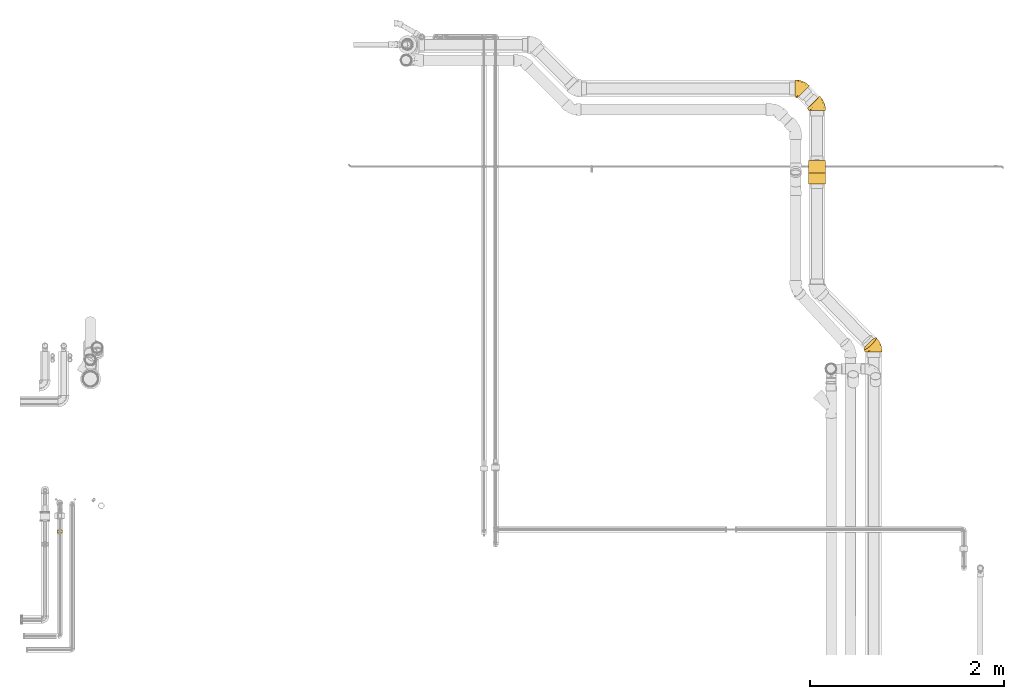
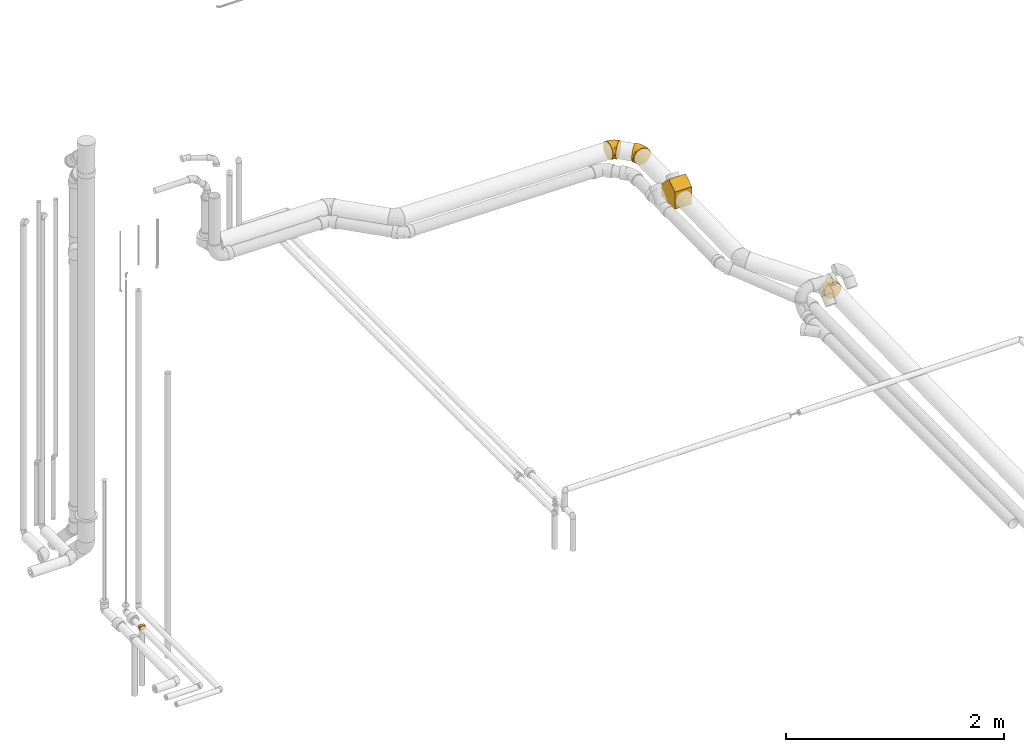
# One storey, part 13 of 78: 5 coverings.
"""IFC2X3 building model written with IfcOpenShell, lengths in millimetres."""

from ifc_helpers import new_model, entity, si_unit, converted_unit, derived_unit, direction, frame, origin_with_axes, place, context, subcontext, project, spatial, open_shell, surface_model, source, transform, mapped, element, save


model = new_model("IFC2X3")

# Units and contexts
model_context = context("Model", 3, precision=0.01, world=frame((0.0, 4.29681676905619e-09, 0.0)), true_north=direction((4.01073788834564e-13, 1.0)))
plan_context = context("Plan", 3, precision=0.01, world=frame((0.0, 4.29681676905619e-09, 0.0)), true_north=direction((4.01073788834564e-13, 1.0)))
body_context = subcontext(model_context, "Body", "Model", "MODEL_VIEW")
ifc_project = project(units=[converted_unit("PLANEANGLEUNIT", "DEGREE", entity("IfcPositiveLengthMeasure", 0.0174532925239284), si_unit("PLANEANGLEUNIT", "RADIAN"), dimensions=[0, 0, 0, 0, 0, 0, 0]), si_unit("AREAUNIT", "SQUARE_METRE"), si_unit("LENGTHUNIT", "METRE", prefix="MILLI"), si_unit("MASSUNIT", "GRAM", prefix="KILO"), si_unit("POWERUNIT", "WATT"), si_unit("PRESSUREUNIT", "PASCAL"), si_unit("FORCEUNIT", "NEWTON", prefix="KILO"), si_unit("ELECTRICVOLTAGEUNIT", "VOLT"), si_unit("ELECTRICCURRENTUNIT", "AMPERE"), si_unit("THERMODYNAMICTEMPERATUREUNIT", "DEGREE_CELSIUS"), si_unit("TIMEUNIT", "SECOND"), si_unit("VOLUMEUNIT", "CUBIC_METRE"), derived_unit("LINEARVELOCITYUNIT", [(si_unit("LENGTHUNIT", "METRE"), 1), (si_unit("TIMEUNIT", "SECOND"), -1)]), derived_unit("VOLUMETRICFLOWRATEUNIT", [(si_unit("VOLUMEUNIT", "CUBIC_METRE"), 1), (si_unit("TIMEUNIT", "SECOND"), -1)]), derived_unit("THERMALTRANSMITTANCEUNIT", [(si_unit("POWERUNIT", "WATT"), 1), (si_unit("THERMODYNAMICTEMPERATUREUNIT", "KELVIN"), -1), (si_unit("AREAUNIT", "SQUARE_METRE"), -1)]), derived_unit("SOUNDPRESSUREUNIT", [(si_unit("PRESSUREUNIT", "PASCAL"), 1)])], contexts=[model_context, plan_context])

# Site, building, storey
site_placement = place(None, frame((0.0, -4.29681676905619e-09, 0.0), z_axis=(0.0, 0.0, 1.0), x_axis=(1.0, 0.0, 0.0)))
site = spatial("IfcSite", under=ifc_project, at=site_placement, Name="ENGM", CompositionType="ELEMENT")
building_placement = place(site_placement, frame((0.0, 4.29681676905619e-09, 0.0), z_axis=(0.0, 0.0, 1.0), x_axis=(1.0, 0.0, 0.0)))
building = spatial("IfcBuilding", under=site, at=building_placement, Name="TH", CompositionType="ELEMENT")
storey_placement = place(building_placement, frame((0.0, 0.0, 205200.0), z_axis=(0.0, 0.0, 1.0), x_axis=(1.0, 0.0, 0.0)))
storey = spatial("IfcBuildingStorey", under=building, at=storey_placement, Name="Nivå D + 1,2 m", CompositionType="ELEMENT", Elevation=205200.0)

# Coverings
shared_shape_1 = source(origin_with_axes(), body_context, "Body", "SurfaceModel", [
    surface_model("IfcShellBasedSurfaceModel", [(53.53194, -177.57381, 89.0), (-63.10544, -104.87316, 89.0), (-63.10544, -104.87316, -89.0), (53.53194, -177.57381, -89.0), (179.65751, -46.30024, 89.0), (179.65751, -46.30024, -89.0), (179.65751, 94.79106, 89.0), (179.65751, 94.79106, -89.0), (-63.10544, 89.9358, 89.0), (-63.10544, 89.9358, -89.0)], [open_shell([[[0, 1, 2]], [[2, 3, 0]], [[4, 0, 5]], [[3, 5, 0]], [[6, 4, 7]], [[5, 7, 4]], [[1, 0, 4]], [[4, 6, 8]], [[4, 8, 1]], [[3, 2, 5]], [[5, 9, 7]], [[9, 5, 2]], [[7, 9, 8]], [[8, 6, 7]], [[1, 8, 2]], [[9, 2, 8]]])]),
])
covering_1_placement = place(storey_placement, frame((903320.3848, 481897.17242, 4353.40533000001), z_axis=(-1.0, 0.0, 0.0), x_axis=(0.0, 0.999800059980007, 0.0199960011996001)))
element("IfcCovering", 1, at=covering_1_placement, inside=storey, Name="BI17T - Cellegummi 13 mm SPV fett", PredefinedType="INSULATION", context=body_context, shape_type="MappedRepresentation", body=[
    mapped(shared_shape_1, transform((0.0, 0.0, 0.0), scale=1.0)),
])
shared_shape_2 = source(origin_with_axes(), body_context, "Body", "SurfaceModel", [
    surface_model("IfcShellBasedSurfaceModel", [(-26.87635, 97.76047, 15.54509), (-24.02064, 94.90384, 30.61646), (-5.23101, 76.10811, 68.56595), (-26.87747, 97.76159, -15.53607), (-27.83809, 98.72253, 0.0), (-19.35814, 90.23982, 44.75638), (13.80032, 57.07059, 84.10466), (24.45382, 46.41365, 88.14125), (3.80418, 67.06998, 77.51286), (-19.36328, 90.24495, -44.7438), (-13.0308, 83.91042, 57.53551), (67.0801, 3.77354, 77.50559), (-24.02364, 94.90683, -30.60483), (13.7921, 57.07882, -84.10043), (-13.03788, 83.91752, -57.52357), (-5.23946, 76.11656, -68.55592), (3.79529, 67.07887, -77.50559), (46.42158, 24.43877, -88.14125), (24.44744, 46.42003, -88.13966), (35.4377, 35.42621, -89.5), (35.4377, 35.42621, 89.5), (46.42795, 24.43238, 88.13966), (57.08329, 13.77359, 84.10043), (97.75286, -26.90918, 15.53607), (76.11485, -5.26415, 68.55592), (83.91328, -13.0651, 57.52357), (94.89903, -24.05442, 30.60483), (90.23867, -19.39255, 44.7438), (76.10641, -5.2557, -68.56595), (67.07121, 3.78243, -77.51286), (57.07507, 13.78181, -84.10466), (97.75175, -26.90806, -15.54509), (94.89603, -24.05142, -30.61646), (90.23354, -19.38741, -44.75638), (83.90619, -13.05801, -57.53551), (98.71349, -27.87011, 0.0), (-50.10835, 86.45036, -23.1643), (-50.10835, 86.45036, 23.1643), (-50.10835, 89.5, 0.0), (-50.10835, 63.28606, -63.28606), (-50.10835, 77.50928, -44.75), (-50.10835, -23.1643, 86.45036), (-50.10835, 44.75, -77.50928), (-50.10835, 23.1643, 86.45036), (-50.10835, 63.28606, 63.28606), (-50.10835, 77.50928, 44.75), (-50.10835, 44.75, 77.50928), (-50.10835, 0.0, 89.5), (-50.10835, 23.1643, -86.45036), (-50.10835, 0.0, -89.5), (-50.10835, -77.50928, -44.75), (-50.10835, -23.1643, -86.45036), (-50.10835, -63.28606, -63.28606), (-50.10835, -44.75, -77.50928), (-50.10835, -86.45036, -23.1643), (-50.10835, -44.75, 77.50928), (-50.10835, -86.45036, 23.1643), (-50.10835, -63.28606, 63.28606), (-50.10835, -77.50928, 44.75), (-50.10835, -89.5, 0.0), (12.40134, -29.94165, 78.8337), (40.6219, -11.96375, 80.07902), (4.29754, -10.37757, 86.95359), (-9.0502, -85.45697, 0.0), (9.44128, -77.13367, 25.1656), (30.43075, -73.48317, 0.0), (48.51889, -62.88965, 18.01119), (25.01743, -60.40745, 48.30037), (1.43588, -53.34862, 65.67041), (-14.93068, -69.17008, 52.62154), (-18.79756, 4.12128, 89.5), (59.65896, -49.49502, 36.37604), (10.38032, 16.20439, 89.5), (-22.31996, -33.86723, 81.79006), (47.66918, -37.26519, 61.48939), (35.78094, -30.43057, 72.05165), (66.8179, -54.03858, 0.0), (-33.06288, 95.23236, 0.0), (-34.40176, 91.45, 18.65091), (-35.67239, 54.42025, 72.2127), (-32.45937, 36.06446, 82.68721), (-14.37211, 45.88588, 81.11741), (-32.04292, 16.85321, 88.18289), (-32.97238, 84.9801, 37.8304), (-40.56842, 83.86357, 34.32111), (-42.20765, 88.72938, 17.4806), (-27.01339, 78.65645, 52.10672), (-37.83936, 75.99591, 49.81775), (-27.76607, 67.7801, 63.29157), (-17.46173, 73.40027, 63.29157), (-14.12471, 25.64191, 87.44289), (3.56656, 38.92479, 86.51228), (-38.05618, 91.89682, 0.0), (-44.08226, 90.69841, 0.0), (-41.309, 71.78558, -54.48415), (-33.68391, 33.98691, -83.40998), (-43.94575, 90.72556, 0.0), (-4.73307, 53.68876, -80.15227), (-31.86456, 76.9466, -51.32899), (-41.18527, 83.7408, -34.25017), (-33.20103, 90.87171, -23.15857), (-40.43096, 89.34456, -16.85611), (-16.46218, 24.84458, -87.43211), (-18.79756, 4.12128, -89.5), (-19.46237, 72.10126, -63.28054), (-31.71397, 60.25903, -68.55644), (-18.28625, 44.15901, -81.11172), (1.84404, 38.10331, -86.44911), (-32.94714, 95.30967, 0.0), (-24.15321, 82.49666, -49.50007), (-18.45063, 59.09004, -73.22266), (10.38032, 16.20439, -89.5), (4.29506, -10.37158, -86.95516), (1.42825, -53.34051, -65.67962), (35.77306, -30.42197, -72.06002), (47.66137, -37.25781, -61.50037), (40.61338, -11.9553, -80.0849), (12.39369, -29.93248, -78.83982), (-14.94173, -69.16472, -52.63154), (9.44052, -77.13189, -25.17218), (25.01173, -60.40148, -48.31238), (-22.32756, -33.86801, -81.79031), (59.71597, -42.80589, -46.92043), (62.90585, -53.30512, -22.06846)], [open_shell([[[0, 1, 2]], [[0, 3, 4]], [[2, 1, 5]], [[6, 7, 8]], [[2, 8, 7]], [[0, 2, 9]], [[5, 10, 2]], [[11, 9, 2]], [[12, 3, 9]], [[13, 14, 9]], [[3, 0, 9]], [[15, 14, 16]], [[13, 17, 18]], [[13, 16, 14]], [[19, 18, 17]], [[17, 13, 9]], [[11, 2, 7]], [[20, 21, 11]], [[22, 11, 21]], [[23, 9, 11]], [[24, 25, 26]], [[23, 11, 26]], [[26, 25, 27]], [[26, 11, 24]], [[9, 23, 28]], [[28, 29, 30]], [[30, 17, 28]], [[9, 28, 17]], [[28, 31, 32]], [[33, 34, 28]], [[28, 32, 33]], [[23, 31, 28]], [[23, 35, 31]], [[11, 7, 20]], [[36, 37, 38]], [[39, 36, 40]], [[41, 39, 42]], [[43, 36, 41]], [[36, 39, 41]], [[37, 44, 45]], [[44, 37, 46]], [[37, 43, 46]], [[37, 36, 43]], [[43, 41, 47]], [[48, 49, 42]], [[50, 49, 51]], [[52, 51, 53]], [[50, 54, 49]], [[50, 51, 52]], [[49, 54, 41]], [[55, 56, 57]], [[55, 41, 54]], [[57, 56, 58]], [[54, 56, 55]], [[54, 59, 56]], [[49, 41, 42]], [[60, 61, 62]], [[56, 59, 63]], [[64, 63, 65]], [[66, 64, 65]], [[22, 21, 62]], [[67, 68, 69]], [[41, 62, 70]], [[71, 67, 64]], [[72, 70, 62]], [[73, 41, 55]], [[74, 75, 68]], [[75, 11, 61]], [[55, 57, 68]], [[70, 47, 41]], [[73, 62, 41]], [[58, 56, 64]], [[67, 74, 68]], [[64, 67, 69]], [[66, 65, 76]], [[66, 23, 26]], [[74, 71, 25]], [[25, 71, 27]], [[26, 71, 66]], [[23, 76, 35]], [[57, 69, 68]], [[24, 75, 74]], [[25, 24, 74]], [[68, 75, 60]], [[62, 21, 72]], [[20, 72, 21]], [[69, 57, 58]], [[68, 60, 73]], [[74, 67, 71]], [[22, 61, 11]], [[23, 66, 76]], [[75, 61, 60]], [[11, 75, 24]], [[62, 61, 22]], [[64, 66, 71]], [[71, 26, 27]], [[64, 69, 58]], [[56, 63, 64]], [[68, 73, 55]], [[62, 73, 60]], [[77, 78, 0]], [[79, 46, 80]], [[81, 6, 8]], [[82, 47, 70]], [[78, 83, 1]], [[80, 43, 82]], [[37, 45, 84]], [[43, 80, 46]], [[37, 85, 38]], [[81, 79, 80]], [[86, 87, 88]], [[10, 5, 86]], [[44, 79, 87]], [[87, 83, 84]], [[86, 89, 10]], [[81, 89, 88]], [[81, 90, 91]], [[79, 81, 88]], [[83, 86, 5]], [[81, 91, 6]], [[1, 0, 78]], [[79, 44, 46]], [[84, 78, 85]], [[10, 89, 2]], [[7, 72, 20]], [[8, 2, 89]], [[88, 89, 86]], [[81, 80, 90]], [[77, 92, 78]], [[85, 92, 93]], [[83, 78, 84]], [[85, 78, 92]], [[0, 4, 77]], [[5, 1, 83]], [[44, 87, 45]], [[89, 81, 8]], [[90, 82, 70]], [[87, 86, 83]], [[79, 88, 87]], [[70, 72, 90]], [[91, 72, 7]], [[72, 91, 90]], [[6, 91, 7]], [[37, 84, 85]], [[45, 87, 84]], [[80, 82, 90]], [[47, 82, 43]], [[38, 85, 93]], [[39, 40, 94]], [[48, 42, 95]], [[36, 38, 96]], [[97, 15, 16]], [[98, 94, 99]], [[100, 101, 92]], [[48, 102, 103]], [[98, 104, 105]], [[49, 48, 103]], [[96, 101, 36]], [[102, 106, 107]], [[102, 95, 106]], [[36, 99, 40]], [[48, 95, 102]], [[101, 100, 99]], [[42, 39, 105]], [[108, 4, 3]], [[105, 95, 42]], [[108, 3, 100]], [[14, 15, 104]], [[104, 109, 14]], [[107, 13, 18]], [[109, 12, 9]], [[109, 100, 12]], [[100, 98, 99]], [[97, 110, 15]], [[97, 13, 107]], [[94, 105, 39]], [[111, 18, 19]], [[102, 111, 103]], [[18, 111, 107]], [[106, 97, 107]], [[105, 106, 95]], [[98, 109, 104]], [[96, 92, 101]], [[3, 12, 100]], [[111, 102, 107]], [[15, 110, 104]], [[36, 101, 99]], [[99, 94, 40]], [[105, 94, 98]], [[100, 109, 98]], [[14, 109, 9]], [[97, 106, 110]], [[13, 97, 16]], [[106, 105, 110]], [[105, 104, 110]], [[100, 92, 108]], [[51, 103, 112]], [[113, 114, 115]], [[115, 114, 28]], [[17, 112, 111]], [[111, 112, 103]], [[49, 103, 51]], [[114, 116, 29]], [[114, 113, 117]], [[63, 59, 54]], [[52, 118, 50]], [[119, 118, 120]], [[118, 119, 50]], [[50, 119, 54]], [[113, 53, 121]], [[118, 52, 113]], [[119, 65, 63]], [[122, 33, 32]], [[51, 121, 53]], [[112, 17, 30]], [[34, 122, 115]], [[112, 30, 116]], [[29, 28, 114]], [[115, 28, 34]], [[118, 113, 120]], [[123, 119, 120]], [[29, 116, 30]], [[53, 113, 52]], [[33, 122, 34]], [[123, 32, 31]], [[115, 122, 120]], [[114, 117, 116]], [[65, 119, 123]], [[31, 35, 76]], [[123, 120, 122]], [[65, 123, 76]], [[76, 123, 31]], [[113, 115, 120]], [[32, 123, 122]], [[54, 119, 63]], [[17, 111, 19]], [[112, 116, 117]], [[112, 117, 121]], [[112, 121, 51]], [[113, 121, 117]]])]),
])
covering_2_placement = place(storey_placement, frame((903320.98069, 482641.12133, 4370.33634000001), z_axis=(0.00819800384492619, -0.0199950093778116, 0.999766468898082), x_axis=(-2.62283794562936e-09, 0.999800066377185, 0.019995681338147)))
element("IfcCovering", 2, at=covering_2_placement, inside=storey, Name="BI17T - Cellegummi 13 mm SPV fett", PredefinedType="INSULATION", context=body_context, shape_type="MappedRepresentation", body=[
    mapped(shared_shape_2, transform((0.0, 0.0, 0.0), scale=1.0)),
])
shared_shape_3 = source(origin_with_axes(), body_context, "Body", "SurfaceModel", [
    surface_model("IfcShellBasedSurfaceModel", [(-26.88407, 97.76424, 15.54509), (-24.0309, 94.91106, -30.60483), (-27.84598, 98.72613, 0.0), (-5.23523, 76.11538, 68.56595), (3.80144, 67.07872, 77.51286), (13.7992, 57.08096, 84.10466), (-13.04337, 83.92352, -57.52357), (-19.36978, 90.24994, -44.7438), (-26.8852, 97.76535, -15.53607), (3.79254, 67.08762, -77.50559), (-5.24367, 76.12383, -68.55592), (13.79097, 57.08918, -84.10043), (57.08096, 13.7992, -84.10466), (46.42574, 24.45442, -88.14125), (67.07872, 3.80144, -77.51286), (98.72613, -27.84598, 0.0), (97.76424, -26.88407, -15.54509), (94.90806, -24.02791, -30.61646), (-50.11984, 86.45036, -23.1643), (-50.11984, 86.45036, 23.1643), (-50.11984, 89.5, 0.0), (-50.11984, 63.28606, -63.28606), (-50.11984, 77.50928, -44.75), (-50.11984, -23.1643, 86.45036), (-50.11984, 44.75, -77.50928), (-50.11984, 23.1643, 86.45036), (-50.11984, 63.28606, 63.28606), (-50.11984, 77.50928, 44.75), (-50.11984, 44.75, 77.50928), (-50.11984, 0.0, 89.5), (-50.11984, 23.1643, -86.45036), (-50.11984, 0.0, -89.5), (-50.11984, -77.50928, -44.75), (-50.11984, -23.1643, -86.45036), (-50.11984, -63.28606, -63.28606), (-50.11984, -44.75, -77.50928), (-50.11984, -86.45036, -23.1643), (-50.11984, -44.75, 77.50928), (-50.11984, -86.45036, 23.1643), (-50.11984, -63.28606, 63.28606), (-50.11984, -77.50928, 44.75), (-50.11984, -89.5, 0.0), (12.40279, -29.93828, 78.83271), (40.62653, -11.95388, 80.07855), (4.297, -10.37388, 86.9534), (-9.05333, -85.4553, 0.0), (9.44182, -77.13028, 25.16488), (30.43502, -73.47664, 0.0), (48.52612, -62.87969, 18.01085), (57.08918, 13.79097, 84.10043), (46.43212, 24.44804, 88.13966), (25.02096, -60.40211, 48.2991), (1.45225, -53.34176, 65.66919), (-14.93384, -69.16861, 52.62144), (-18.80274, 4.12297, 89.5), (59.66945, -49.48114, 36.37551), (10.38016, 16.21093, 89.5), (-22.32376, -33.86685, 81.78962), (47.67784, -37.25347, 61.48873), (35.7854, -30.4225, 72.05103), (67.08762, 3.79254, 77.50559), (66.82769, -54.02436, 0.0), (97.76535, -26.8852, 15.53607), (94.91106, -24.0309, 30.60483), (83.92352, -13.04337, 57.52357), (90.24994, -19.36978, 44.7438), (76.12383, -5.24367, 68.55592), (35.44008, 35.44008, 89.5), (-33.07032, 95.23534, 0.0), (-34.40977, 91.4521, 18.64986), (-35.68326, 54.42269, 72.21105), (-32.4639, 36.06591, 82.68721), (-14.37216, 45.89133, 81.11741), (-32.04868, 16.85803, 88.18224), (-32.97839, 84.9827, 37.8304), (-24.02791, 94.90806, 30.61646), (-40.57246, 83.86553, 34.321), (-42.21675, 88.729, 17.4853), (-27.02031, 78.65811, 52.10774), (-37.84835, 75.99858, 49.81488), (-27.7733, 67.78189, 63.29157), (-13.03628, 83.91643, 57.53551), (-19.36465, 90.24481, 44.75638), (-17.46756, 73.40416, 63.29157), (-14.12588, 25.64548, 87.44296), (3.56748, 38.9291, 86.51312), (24.45442, 46.42574, 88.14125), (-38.06531, 91.8978, 0.0), (-44.09258, 90.6989, 0.0), (-41.3183, 71.78597, -54.48415), (-33.68972, 33.98489, -83.41116), (-43.95731, 90.7258, 0.0), (-4.73875, 53.69641, -80.15072), (-31.87248, 76.94808, -51.32899), (-41.19555, 83.74109, -34.25017), (-33.20838, 90.87403, -23.15857), (-40.44121, 89.34509, -16.85536), (-16.46117, 24.84732, -87.43245), (-18.80274, 4.12297, -89.5), (-19.46762, 72.10517, -63.28054), (-31.71604, 60.26188, -68.55644), (-18.29151, 44.1616, -81.11172), (1.84312, 38.10994, -86.44911), (-32.95564, 95.31197, 0.0), (-24.16145, 82.50117, -49.49719), (24.44804, 46.43212, -88.13966), (-18.45849, 59.09336, -73.22175), (10.38016, 16.21093, -89.5), (35.44008, 35.44008, -89.5), (4.29452, -10.36789, -86.95497), (1.44463, -53.33365, -65.67839), (35.77751, -30.4139, -72.0594), (47.67003, -37.24609, -61.49971), (76.11538, -5.23523, -68.56595), (40.61801, -11.94543, -80.08444), (12.39515, -29.92912, -78.83883), (-14.94488, -69.16325, -52.63145), (9.44106, -77.1285, -25.17146), (25.01525, -60.39614, -48.31111), (-22.33137, -33.86763, -81.78988), (59.72464, -42.79541, -46.91631), (90.24481, -19.36465, -44.75638), (83.91643, -13.03628, -57.53551), (62.92368, -53.28617, -22.06827)], [open_shell([[[0, 1, 2]], [[3, 4, 5]], [[6, 7, 1]], [[8, 2, 1]], [[9, 10, 11]], [[12, 13, 14]], [[15, 16, 17]], [[18, 19, 20]], [[21, 18, 22]], [[23, 21, 24]], [[25, 18, 23]], [[18, 21, 23]], [[19, 26, 27]], [[26, 19, 28]], [[19, 25, 28]], [[19, 18, 25]], [[25, 23, 29]], [[30, 31, 24]], [[32, 31, 33]], [[34, 33, 35]], [[32, 36, 31]], [[32, 33, 34]], [[31, 36, 23]], [[37, 38, 39]], [[37, 23, 36]], [[39, 38, 40]], [[36, 38, 37]], [[36, 41, 38]], [[31, 23, 24]], [[42, 43, 44]], [[38, 41, 45]], [[46, 45, 47]], [[48, 46, 47]], [[49, 50, 44]], [[51, 52, 53]], [[23, 44, 54]], [[55, 51, 46]], [[56, 54, 44]], [[57, 23, 37]], [[58, 59, 52]], [[59, 60, 43]], [[37, 39, 52]], [[54, 29, 23]], [[57, 44, 23]], [[40, 38, 46]], [[51, 58, 52]], [[46, 51, 53]], [[48, 47, 61]], [[48, 62, 63]], [[58, 55, 64]], [[64, 55, 65]], [[63, 55, 48]], [[62, 61, 15]], [[39, 53, 52]], [[66, 59, 58]], [[64, 66, 58]], [[52, 59, 42]], [[44, 50, 56]], [[67, 56, 50]], [[53, 39, 40]], [[52, 42, 57]], [[58, 51, 55]], [[49, 43, 60]], [[62, 48, 61]], [[59, 43, 42]], [[60, 59, 66]], [[44, 43, 49]], [[46, 48, 55]], [[55, 63, 65]], [[46, 53, 40]], [[38, 45, 46]], [[52, 57, 37]], [[44, 57, 42]], [[68, 69, 0]], [[70, 28, 71]], [[72, 5, 4]], [[73, 29, 54]], [[69, 74, 75]], [[71, 25, 73]], [[19, 27, 76]], [[25, 71, 28]], [[19, 77, 20]], [[72, 70, 71]], [[78, 79, 80]], [[81, 82, 78]], [[26, 70, 79]], [[79, 74, 76]], [[78, 83, 81]], [[72, 83, 80]], [[72, 84, 85]], [[70, 72, 80]], [[74, 78, 82]], [[72, 85, 5]], [[75, 0, 69]], [[70, 26, 28]], [[76, 69, 77]], [[81, 83, 3]], [[86, 56, 67]], [[4, 3, 83]], [[80, 83, 78]], [[72, 71, 84]], [[68, 87, 69]], [[77, 87, 88]], [[74, 69, 76]], [[77, 69, 87]], [[0, 2, 68]], [[82, 75, 74]], [[26, 79, 27]], [[83, 72, 4]], [[84, 73, 54]], [[79, 78, 74]], [[70, 80, 79]], [[54, 56, 84]], [[85, 56, 86]], [[56, 85, 84]], [[5, 85, 86]], [[19, 76, 77]], [[27, 79, 76]], [[71, 73, 84]], [[29, 73, 25]], [[20, 77, 88]], [[21, 22, 89]], [[30, 24, 90]], [[18, 20, 91]], [[92, 10, 9]], [[93, 89, 94]], [[95, 96, 87]], [[30, 97, 98]], [[93, 99, 100]], [[31, 30, 98]], [[91, 96, 18]], [[97, 101, 102]], [[97, 90, 101]], [[18, 94, 22]], [[30, 90, 97]], [[96, 95, 94]], [[24, 21, 100]], [[103, 2, 8]], [[100, 90, 24]], [[103, 8, 95]], [[6, 10, 99]], [[99, 104, 6]], [[102, 11, 105]], [[104, 1, 7]], [[104, 95, 1]], [[95, 93, 94]], [[92, 106, 10]], [[92, 11, 102]], [[89, 100, 21]], [[107, 105, 108]], [[97, 107, 98]], [[105, 107, 102]], [[101, 92, 102]], [[100, 101, 90]], [[93, 104, 99]], [[91, 87, 96]], [[8, 1, 95]], [[107, 97, 102]], [[10, 106, 99]], [[18, 96, 94]], [[94, 89, 22]], [[100, 89, 93]], [[95, 104, 93]], [[6, 104, 7]], [[92, 101, 106]], [[11, 92, 9]], [[101, 100, 106]], [[100, 99, 106]], [[95, 87, 103]], [[33, 98, 109]], [[110, 111, 112]], [[112, 111, 113]], [[13, 109, 107]], [[107, 109, 98]], [[31, 98, 33]], [[111, 114, 14]], [[111, 110, 115]], [[45, 41, 36]], [[34, 116, 32]], [[117, 116, 118]], [[116, 117, 32]], [[32, 117, 36]], [[110, 35, 119]], [[116, 34, 110]], [[117, 47, 45]], [[120, 121, 17]], [[33, 119, 35]], [[109, 13, 12]], [[122, 120, 112]], [[109, 12, 114]], [[14, 113, 111]], [[112, 113, 122]], [[116, 110, 118]], [[123, 117, 118]], [[14, 114, 12]], [[35, 110, 34]], [[121, 120, 122]], [[123, 17, 16]], [[112, 120, 118]], [[111, 115, 114]], [[47, 117, 123]], [[16, 15, 61]], [[123, 118, 120]], [[47, 123, 61]], [[61, 123, 16]], [[110, 112, 118]], [[17, 123, 120]], [[36, 117, 45]], [[13, 107, 108]], [[109, 114, 115]], [[109, 115, 119]], [[109, 119, 33]], [[110, 119, 115]], [[75, 82, 0]], [[1, 0, 82]], [[5, 86, 3]], [[86, 82, 3]], [[82, 81, 3]], [[82, 65, 1]], [[6, 1, 10]], [[11, 13, 105]], [[11, 10, 1]], [[13, 108, 105]], [[13, 11, 1]], [[65, 82, 86]], [[50, 49, 86]], [[86, 49, 65]], [[65, 49, 60]], [[66, 64, 65]], [[65, 63, 62]], [[13, 1, 65]], [[65, 60, 66]], [[13, 65, 62]], [[121, 113, 14]], [[121, 14, 13]], [[121, 122, 113]], [[13, 17, 121]], [[62, 17, 13]], [[62, 15, 17]], [[86, 67, 50]]])]),
])
covering_3_placement = place(storey_placement, frame((903902.88819, 480154.2919, 4173.07676999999), z_axis=(0.246527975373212, -0.0193789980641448, 0.968941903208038), x_axis=(3.94365855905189e-08, 0.99980005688, 0.0199961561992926)))
element("IfcCovering", 3, at=covering_3_placement, inside=storey, Name="BI17T - Cellegummi 13 mm SPV fett", PredefinedType="INSULATION", context=body_context, shape_type="MappedRepresentation", body=[
    mapped(shared_shape_3, transform((0.0, 0.0, 0.0), scale=1.0)),
])
shared_shape_4 = source(origin_with_axes(), body_context, "Body", "SurfaceModel", [
    surface_model("IfcShellBasedSurfaceModel", [(-24.02442, 94.90603, 30.61646), (-26.88149, 97.76355, -15.53607), (-26.88037, 97.76243, 15.54509), (-27.8422, 98.72441, 0.0), (-19.36153, 90.24242, 44.75638), (-13.03365, 83.91356, 57.53551), (13.79974, 57.07599, 84.10466), (13.79152, 57.08422, -84.10043), (-5.23321, 76.1119, 68.56595), (3.80275, 67.07453, 77.51286), (35.43894, 35.43343, -89.5), (35.43894, 35.43343, 89.5), (-24.02741, 94.90903, -30.60483), (-19.36666, 90.24755, -44.7438), (-13.04074, 83.92064, -57.52357), (-5.24165, 76.12034, -68.55592), (3.79386, 67.08342, -77.50559), (24.44775, 46.42632, -88.13966), (24.45413, 46.41994, 88.14125), (46.43012, 24.44053, 88.13966), (67.07512, 3.79232, -77.51286), (57.08636, 13.78264, 84.10043), (67.08401, 3.78343, 77.50559), (97.75937, -26.8967, 15.53607), (83.91861, -13.05379, 57.52357), (90.24454, -19.3807, 44.7438), (94.90529, -24.04218, 30.60483), (76.11953, -5.25349, 68.55592), (76.11108, -5.24504, -68.56595), (57.07814, 13.79086, -84.10466), (46.42374, 24.44691, -88.14125), (94.9023, -24.03918, -30.61646), (97.75824, -26.89557, -15.54509), (90.2394, -19.37557, -44.75638), (83.91153, -13.0467, -57.53551), (98.72007, -27.85755, 0.0), (-50.11433, 86.45036, -23.1643), (-50.11433, 86.45036, 23.1643), (-50.11433, 89.5, 0.0), (-50.11433, 63.28606, -63.28606), (-50.11433, 77.50928, -44.75), (-50.11433, -23.1643, 86.45036), (-50.11433, 44.75, -77.50928), (-50.11433, 23.1643, 86.45036), (-50.11433, 63.28606, 63.28606), (-50.11433, 77.50928, 44.75), (-50.11433, 44.75, 77.50928), (-50.11433, 0.0, 89.5), (-50.11433, 23.1643, -86.45036), (-50.11433, 0.0, -89.5), (-50.11433, -77.50928, -44.75), (-50.11433, -23.1643, -86.45036), (-50.11433, -63.28606, -63.28606), (-50.11433, -44.75, -77.50928), (-50.11433, -86.45036, -23.1643), (-50.11433, -44.75, 77.50928), (-50.11433, -86.45036, 23.1643), (-50.11433, -63.28606, 63.28606), (-50.11433, -77.50928, 44.75), (-50.11433, -89.5, 0.0), (12.4021, -29.9399, 78.83318), (40.62431, -11.95862, 80.07878), (4.29726, -10.37565, 86.95349), (-9.05183, -85.4561, 0.0), (9.44156, -77.13191, 25.16523), (30.43297, -73.47977, 0.0), (48.52266, -62.88447, 18.01101), (25.01927, -60.40467, 48.2997), (1.4444, -53.34505, 65.66978), (-14.93232, -69.16932, 52.62149), (-18.80025, 4.12216, 89.5), (59.66442, -49.48779, 36.37576), (10.38024, 16.20779, 89.5), (-22.32194, -33.86703, 81.78983), (47.67369, -37.25909, 61.48905), (35.78326, -30.42637, 72.05133), (66.823, -54.03117, 0.0), (-33.06675, 95.23391, 0.0), (-34.40593, 91.45109, 18.65036), (-35.67805, 54.42152, 72.21184), (-32.46172, 36.06521, 82.68721), (-14.37213, 45.88871, 81.11741), (-32.04592, 16.85572, 88.18254), (-32.9755, 84.98146, 37.8304), (-40.57052, 83.86459, 34.32105), (-42.21239, 88.72918, 17.48305), (-27.01699, 78.65731, 52.10725), (-37.84404, 75.9973, 49.81625), (-27.76983, 67.78103, 63.29157), (-17.46477, 73.4023, 63.29157), (-14.12532, 25.64377, 87.44293), (3.56703, 38.92703, 86.51272), (-38.06093, 91.89732, 0.0), (-44.08763, 90.69866, 0.0), (-41.31384, 71.78578, -54.48415), (-33.68694, 33.98586, -83.4106), (-43.95176, 90.72568, 0.0), (-4.73603, 53.69274, -80.15147), (-31.86868, 76.94737, -51.32899), (-41.19062, 83.74096, -34.25017), (-33.20486, 90.87291, -23.15857), (-40.4363, 89.34484, -16.85572), (-16.46165, 24.84601, -87.43229), (-18.80025, 4.12216, -89.5), (-19.4651, 72.10329, -63.28054), (-31.71505, 60.26051, -68.55644), (-18.28899, 44.16036, -81.11172), (1.84356, 38.10676, -86.44911), (-32.95157, 95.31086, 0.0), (-24.1575, 82.49901, -49.49857), (-18.45472, 59.09176, -73.22218), (10.38024, 16.20779, -89.5), (4.29478, -10.36966, -86.95506), (1.43678, -53.33694, -65.67898), (35.77538, -30.41777, -72.0597), (47.66588, -37.25171, -61.50003), (40.61579, -11.95017, -80.08466), (12.39445, -29.93073, -78.8393), (-14.94337, -69.16396, -52.6315), (9.4408, -77.13012, -25.1718), (25.01356, -60.3987, -48.31172), (-22.32954, -33.86781, -81.79008), (59.72049, -42.80044, -46.91828), (62.91513, -53.29526, -22.06836)], [open_shell([[[0, 1, 2]], [[2, 1, 3]], [[0, 4, 5]], [[6, 7, 0]], [[8, 9, 6]], [[6, 0, 8]], [[5, 8, 0]], [[10, 6, 11]], [[12, 1, 13]], [[14, 13, 1]], [[0, 14, 1]], [[15, 14, 16]], [[7, 10, 17]], [[14, 0, 16]], [[16, 0, 7]], [[6, 10, 7]], [[6, 18, 11]], [[19, 20, 11]], [[21, 22, 19]], [[23, 19, 22]], [[24, 23, 22]], [[25, 26, 23]], [[25, 23, 24]], [[24, 22, 27]], [[20, 19, 23]], [[28, 20, 23]], [[29, 30, 20]], [[20, 30, 11]], [[31, 23, 32]], [[23, 33, 34]], [[23, 31, 33]], [[23, 34, 28]], [[35, 32, 23]], [[11, 30, 10]], [[36, 37, 38]], [[39, 36, 40]], [[41, 39, 42]], [[43, 36, 41]], [[36, 39, 41]], [[37, 44, 45]], [[44, 37, 46]], [[37, 43, 46]], [[37, 36, 43]], [[43, 41, 47]], [[48, 49, 42]], [[50, 49, 51]], [[52, 51, 53]], [[50, 54, 49]], [[50, 51, 52]], [[49, 54, 41]], [[55, 56, 57]], [[55, 41, 54]], [[57, 56, 58]], [[54, 56, 55]], [[54, 59, 56]], [[49, 41, 42]], [[60, 61, 62]], [[56, 59, 63]], [[64, 63, 65]], [[66, 64, 65]], [[21, 19, 62]], [[67, 68, 69]], [[41, 62, 70]], [[71, 67, 64]], [[72, 70, 62]], [[73, 41, 55]], [[74, 75, 68]], [[75, 22, 61]], [[55, 57, 68]], [[70, 47, 41]], [[73, 62, 41]], [[58, 56, 64]], [[67, 74, 68]], [[64, 67, 69]], [[66, 65, 76]], [[66, 23, 26]], [[74, 71, 24]], [[24, 71, 25]], [[26, 71, 66]], [[23, 76, 35]], [[57, 69, 68]], [[27, 75, 74]], [[24, 27, 74]], [[68, 75, 60]], [[62, 19, 72]], [[11, 72, 19]], [[69, 57, 58]], [[68, 60, 73]], [[74, 67, 71]], [[21, 61, 22]], [[23, 66, 76]], [[75, 61, 60]], [[22, 75, 27]], [[62, 61, 21]], [[64, 66, 71]], [[71, 26, 25]], [[64, 69, 58]], [[56, 63, 64]], [[68, 73, 55]], [[62, 73, 60]], [[77, 78, 2]], [[79, 46, 80]], [[81, 6, 9]], [[82, 47, 70]], [[78, 83, 0]], [[80, 43, 82]], [[37, 45, 84]], [[43, 80, 46]], [[37, 85, 38]], [[81, 79, 80]], [[86, 87, 88]], [[5, 4, 86]], [[44, 79, 87]], [[87, 83, 84]], [[86, 89, 5]], [[81, 89, 88]], [[81, 90, 91]], [[79, 81, 88]], [[83, 86, 4]], [[81, 91, 6]], [[0, 2, 78]], [[79, 44, 46]], [[84, 78, 85]], [[5, 89, 8]], [[18, 72, 11]], [[9, 8, 89]], [[88, 89, 86]], [[81, 80, 90]], [[77, 92, 78]], [[85, 92, 93]], [[83, 78, 84]], [[85, 78, 92]], [[2, 3, 77]], [[4, 0, 83]], [[44, 87, 45]], [[89, 81, 9]], [[90, 82, 70]], [[87, 86, 83]], [[79, 88, 87]], [[70, 72, 90]], [[91, 72, 18]], [[72, 91, 90]], [[6, 91, 18]], [[37, 84, 85]], [[45, 87, 84]], [[80, 82, 90]], [[47, 82, 43]], [[38, 85, 93]], [[39, 40, 94]], [[48, 42, 95]], [[36, 38, 96]], [[97, 15, 16]], [[98, 94, 99]], [[100, 101, 92]], [[48, 102, 103]], [[98, 104, 105]], [[49, 48, 103]], [[96, 101, 36]], [[102, 106, 107]], [[102, 95, 106]], [[36, 99, 40]], [[48, 95, 102]], [[101, 100, 99]], [[42, 39, 105]], [[108, 3, 1]], [[105, 95, 42]], [[108, 1, 100]], [[14, 15, 104]], [[104, 109, 14]], [[107, 7, 17]], [[109, 12, 13]], [[109, 100, 12]], [[100, 98, 99]], [[97, 110, 15]], [[97, 7, 107]], [[94, 105, 39]], [[111, 17, 10]], [[102, 111, 103]], [[17, 111, 107]], [[106, 97, 107]], [[105, 106, 95]], [[98, 109, 104]], [[96, 92, 101]], [[1, 12, 100]], [[111, 102, 107]], [[15, 110, 104]], [[36, 101, 99]], [[99, 94, 40]], [[105, 94, 98]], [[100, 109, 98]], [[14, 109, 13]], [[97, 106, 110]], [[7, 97, 16]], [[106, 105, 110]], [[105, 104, 110]], [[100, 92, 108]], [[51, 103, 112]], [[113, 114, 115]], [[115, 114, 28]], [[30, 112, 111]], [[111, 112, 103]], [[49, 103, 51]], [[114, 116, 20]], [[114, 113, 117]], [[63, 59, 54]], [[52, 118, 50]], [[119, 118, 120]], [[118, 119, 50]], [[50, 119, 54]], [[113, 53, 121]], [[118, 52, 113]], [[119, 65, 63]], [[122, 33, 31]], [[51, 121, 53]], [[112, 30, 29]], [[34, 122, 115]], [[112, 29, 116]], [[20, 28, 114]], [[115, 28, 34]], [[118, 113, 120]], [[123, 119, 120]], [[20, 116, 29]], [[53, 113, 52]], [[33, 122, 34]], [[123, 31, 32]], [[115, 122, 120]], [[114, 117, 116]], [[65, 119, 123]], [[32, 35, 76]], [[123, 120, 122]], [[65, 123, 76]], [[76, 123, 32]], [[113, 115, 120]], [[31, 123, 122]], [[54, 119, 63]], [[30, 111, 10]], [[112, 116, 117]], [[112, 117, 121]], [[112, 121, 51]], [[113, 121, 117]]])]),
])
covering_4_placement = place(storey_placement, frame((903143.47567, 482818.6253, 4375.34198999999), z_axis=(0.0124489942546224, -0.015744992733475, 0.999798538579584), x_axis=(-0.70696824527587, 0.706964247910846, 0.0199362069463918)))
element("IfcCovering", 4, at=covering_4_placement, inside=storey, Name="BI17T - Cellegummi 13 mm SPV fett", PredefinedType="INSULATION", context=body_context, shape_type="MappedRepresentation", body=[
    mapped(shared_shape_4, transform((0.0, 0.0, 0.0), scale=1.0)),
])
shared_shape_5 = source(origin_with_axes(), body_context, "Body", "SurfaceModel", [
    surface_model("IfcShellBasedSurfaceModel", [(-15.0, -13.5, 29.0), (15.0, -13.5, 29.0), (-15.0, 29.0, 29.0), (15.0, 29.0, 29.0), (-15.0, -13.5, -29.0), (-15.0, 29.0, -29.0), (15.0, -13.5, -29.0), (15.0, 29.0, -29.0)], [open_shell([[[0, 1, 2]], [[3, 2, 1]], [[4, 0, 2]], [[2, 5, 4]], [[6, 4, 7]], [[5, 7, 4]], [[1, 6, 7]], [[7, 3, 1]], [[7, 5, 2]], [[2, 3, 7]], [[1, 0, 4]], [[4, 6, 1]]])]),
])
covering_5_placement = place(storey_placement, frame((895520.48466, 478254.37338, 4450.0), z_axis=(1.0, 0.0, 0.0), x_axis=(0.0, 1.0, 0.0)))
element("IfcCovering", 5, at=covering_5_placement, inside=storey, Name="Rørskål m/Al.folje - Varme 55 (uisolert oppheng)", PredefinedType="INSULATION", context=body_context, shape_type="MappedRepresentation", body=[
    mapped(shared_shape_5, transform((0.0, 0.0, 0.0), scale=1.0)),
])

save(model, "model.ifc")
